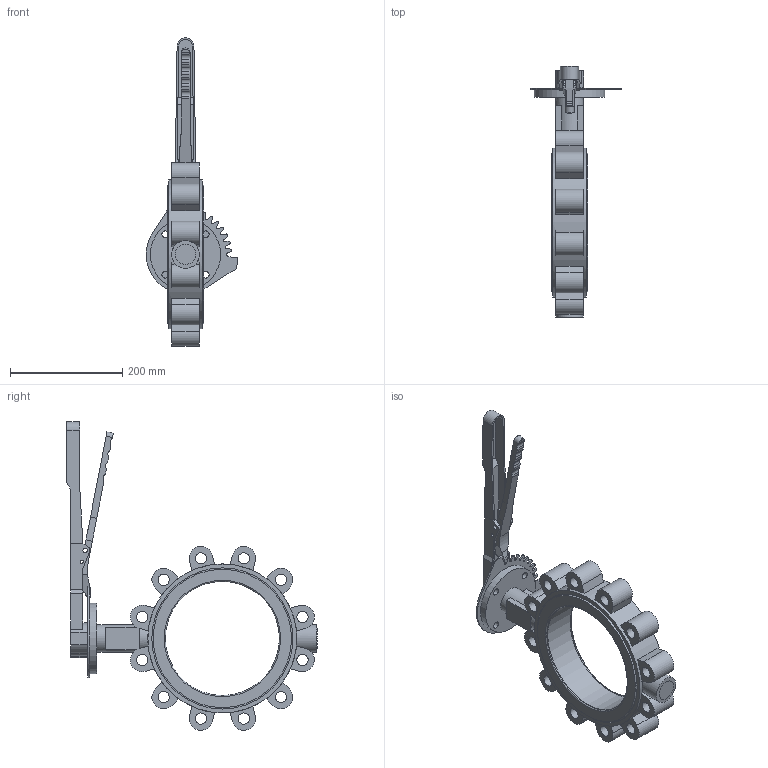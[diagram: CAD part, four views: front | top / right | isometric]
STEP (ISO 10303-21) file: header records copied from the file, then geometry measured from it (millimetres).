
FILE_DESCRIPTION (( 'STEP AP203' ), '1' );
FILE_NAME ('2502 LT型中线衬胶带销 手柄蝶阀 DN200 PN16 CD0309142.STEP', '2026-04-22T01:57:03', ( '' ), ( '' ), 'SwSTEP 2.0', 'SolidWorks 2018', '' );
FILE_SCHEMA (( 'CONFIG_CONTROL_DESIGN' ));
Length unit declared in the file: millimetre
Products named in the file (8): GALA-D200-01LCN(2)-00; 新型玛钢手柄主手柄-DN200-DN300-立方孔22-YH-D200-300-07SZ-03; 新型玛钢手柄副手柄-DN200-DN300-YH-D200-300-07SF-02; GALA-D200-04AZC-00; M30X1.5内六角螺塞; 2502 LT型中线衬胶带销 手柄蝶阀 DN200 PN16 CD0309142; 新型玛钢手柄齿盘-DN200-DN300; 新型玛钢手柄装配体-DN200-DN300-立方孔17
Assembly tree (7 placements, depth 3):
  2502 LT型中线衬胶带销 手柄蝶阀 DN200 PN16 CD0309142
    GALA-D200-04AZC-00
    M30X1.5内六角螺塞
    GALA-D200-01LCN(2)-00
    新型玛钢手柄装配体-DN200-DN300-立方孔17
      新型玛钢手柄主手柄-DN200-DN300-立方孔22-YH-D200-300-07SZ-03
      新型玛钢手柄副手柄-DN200-DN300-YH-D200-300-07SF-02
      新型玛钢手柄齿盘-DN200-DN300
Bounding box: 163.05 x 446 x 548.89 mm (x, y, z)
Volume: 2670824.7 mm3; surface area: 531950.3 mm2
Topology: 6 solids, 6 shells, 354 faces, 962 edges, 635 vertices
Faces by surface type: plane 188, cylinder 155, cone 8, torus 3
Full cylindrical faces by diameter (mm): 6 x4, 8 x4, 12 x6, 20 x12, 30 x1, 36 x1, 40 x1, 49 x2, 125 x1, 202.908 x1, 212.997 x1, 213 x1, 246 x2, 251 x2, 265 x1
Entity records: 12191 total; most frequent: CARTESIAN_POINT 2305, DIRECTION 1929, ORIENTED_EDGE 1808, EDGE_CURVE 904, AXIS2_PLACEMENT_3D 701, VERTEX_POINT 629, VECTOR 527, LINE 527
